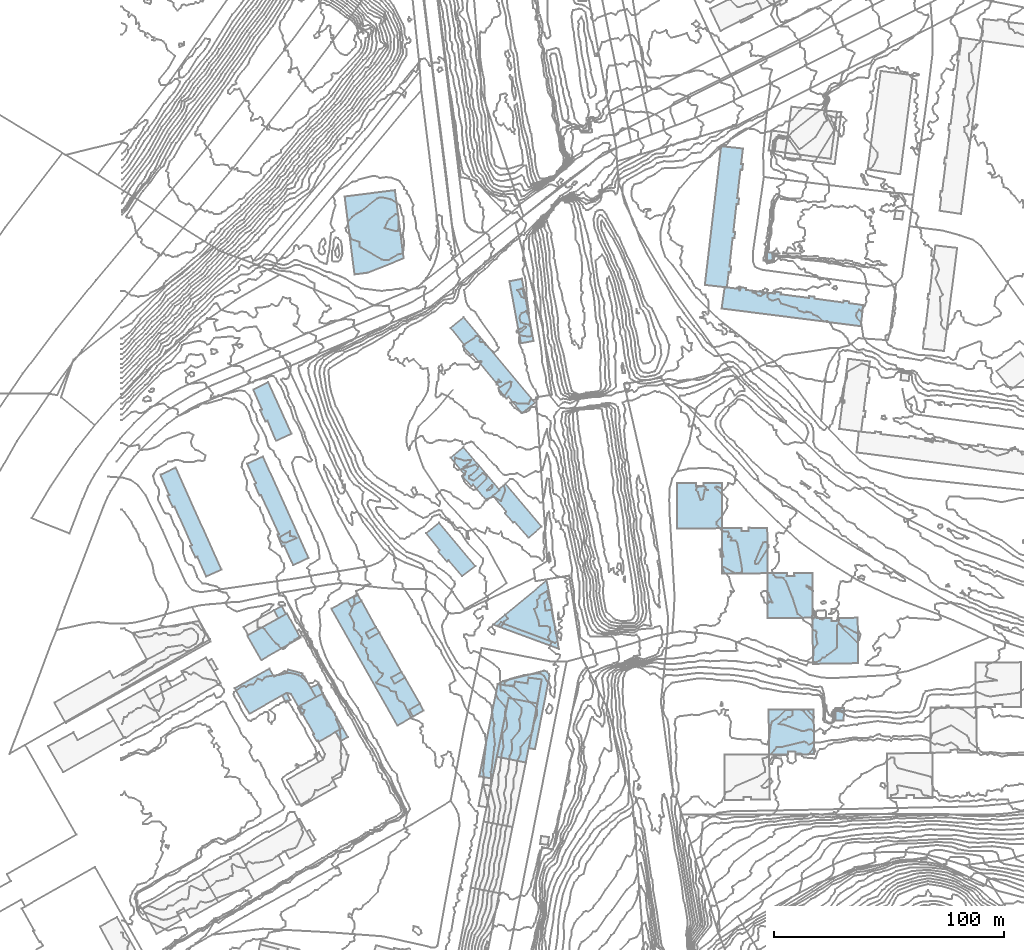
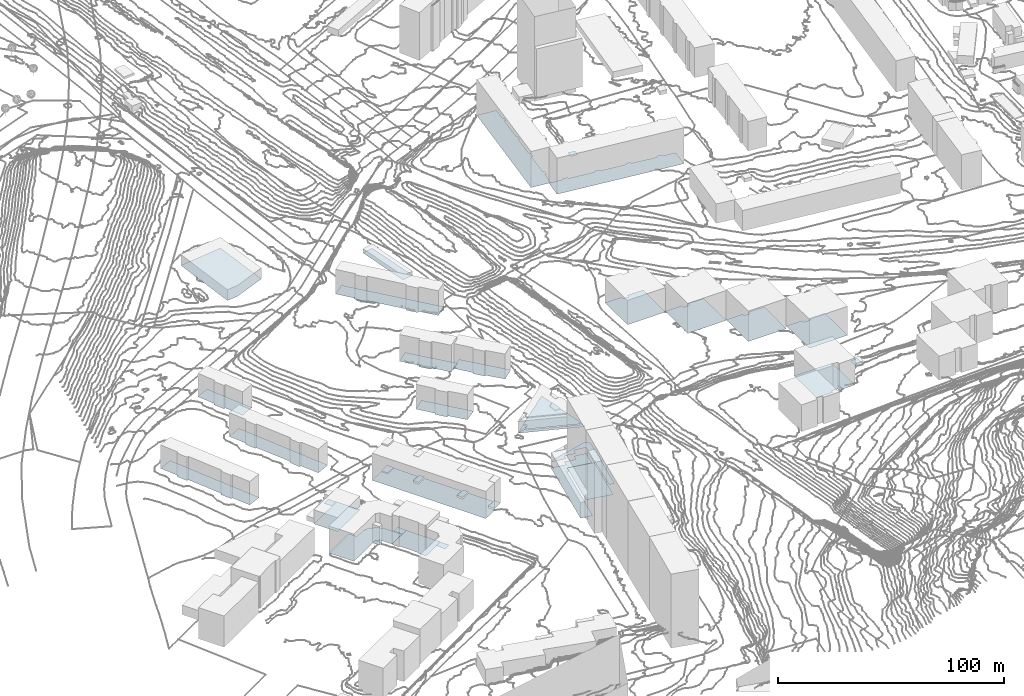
# Not in any storey, part 3 of 419: 36 footings.
"""IFC2X3 model written with IfcOpenShell, lengths in metres."""

from ifc_helpers import new_model, si_unit, frame, origin_with_axes, place, context, subcontext, project, faceted_brep, element, save


model = new_model("IFC2X3")

# Units and contexts
model_context = context("Model", 3, precision=1e-05, world=origin_with_axes())
body_context = subcontext(model_context, "Body", "Model", "MODEL_VIEW")
ifc_project = project(units=[si_unit("AREAUNIT", "SQUARE_METRE"), si_unit("LENGTHUNIT", "METRE")], contexts=[model_context])

# Footings
footing_1_placement = place(None, frame((261.1920204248, 673.8976909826, 29.2109998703), z_axis=(0.0, 0.0, 1.0), x_axis=(1.0, 0.0, 0.0)))
element("IfcFooting", 1, at=footing_1_placement, Name="Sol 0", PredefinedType="STRIP_FOOTING", context=body_context, shape_type="Brep", body=[
    faceted_brep([(1.3, 9.0999999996, 0.0), (2.3, 9.2000000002, 0.0), (8.1, 8.5, 0.0), (60.6, -7.7000000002, 0.0), (0.0, 0.0, 0.0), (55.5, 2.2999999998, 0.0), (61.7000000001, 1.5, 0.0), (53.1, 3.4000000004, 0.0), (55.6, 3.0999999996, 0.0), (38.1, 5.4000000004, 0.0), (40.6, 5.0999999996, 0.0), (40.5, 4.2999999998, 0.0), (23.3, 7.2999999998, 0.0), (25.8, 7.0, 0.0), (25.7000000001, 6.2000000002, 0.0), (8.2000000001, 9.2999999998, 0.0), (10.7000000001, 8.9000000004, 0.0), (10.6, 8.0999999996, 0.0), (38.0, 4.5999999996, 0.0), (23.2000000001, 6.5, 0.0), (53.0, 2.5999999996, 0.0)], [[[0, 1, 2]], [[3, 4, 0]], [[5, 6, 3]], [[7, 8, 5]], [[9, 10, 11]], [[12, 13, 14]], [[15, 16, 17]], [[3, 0, 2]], [[7, 5, 3]], [[18, 9, 11]], [[19, 12, 14]], [[2, 15, 17]], [[20, 7, 3]], [[18, 11, 20]], [[19, 14, 18]], [[3, 2, 17]], [[18, 20, 3]], [[17, 19, 18]], [[18, 3, 17]]]),
])
footing_2_placement = place(None, frame((261.3920204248, 558.3976909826, 23.918000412), z_axis=(0.0, 0.0, 1.0), x_axis=(1.0, 0.0, 0.0)))
element("IfcFooting", 2, at=footing_2_placement, Name="Sol 0", PredefinedType="STRIP_FOOTING", context=body_context, shape_type="Brep", body=[
    faceted_brep([(0.0, 0.0, 0.0), (0.0, 19.7999999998, 0.0), (8.5, 19.9000000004, 0.0), (19.7, 19.9000000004, 0.0), (19.7999999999, 0.2000000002, 0.0), (11.6, 18.5999999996, 0.0), (11.5, 20.0, 0.0), (8.3999999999, 18.5999999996, 0.0)], [[[0, 1, 2]], [[3, 4, 0]], [[5, 6, 3]], [[0, 2, 7]], [[5, 3, 0]], [[0, 7, 5]]]),
])
footing_3_placement = place(None, frame((166.4920204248, 536.4976909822, 18.7135003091), z_axis=(0.0, 0.0, 1.0), x_axis=(1.0, 0.0, 0.0)))
element("IfcFooting", 3, at=footing_3_placement, Name="Sol 0", PredefinedType="STRIP_FOOTING", context=body_context, shape_type="Brep", body=[
    faceted_brep([(1.6, 2.4000000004, 0.0), (0.4, 4.0, 0.0), (18.5, 19.0, 0.0), (0.0, 0.0, 0.0), (0.0, 1.1000000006, 0.0), (23.2, -7.2999999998, 0.0), (22.1, -8.2999999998, 0.0), (18.0, 5.8000000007, 0.0), (20.7999999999, 6.2000000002, 0.0), (19.7999999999, 12.1000000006, 0.0), (17.5, 9.9000000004, 0.0)], [[[0, 1, 2]], [[3, 4, 0]], [[5, 6, 3]], [[7, 8, 5]], [[2, 9, 10]], [[3, 0, 2]], [[7, 5, 3]], [[3, 2, 10]], [[10, 7, 3]]]),
])
footing_4_placement = place(None, frame((183.9920204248, 546.3976909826, 18.9063995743), z_axis=(0.0, 0.0, 1.0), x_axis=(1.0, 0.0, 0.0)))
element("IfcFooting", 4, at=footing_4_placement, Name="Sol 0", PredefinedType="STRIP_FOOTING", context=body_context, shape_type="Brep", body=[
    faceted_brep([(0.0, 0.0, 0.0), (2.2999999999, 2.2000000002, 0.0), (3.2999999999, -3.7000000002, 0.0), (0.5, -4.0999999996, 0.0)], [[[0, 1, 2]], [[2, 3, 0]]]),
])
footing_5_placement = place(None, frame((82.1920204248, 508.6976909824, 9.9609997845), z_axis=(0.0, 0.0, 1.0), x_axis=(1.0, 0.0, 0.0)))
element("IfcFooting", 5, at=footing_5_placement, Name="Sol 0", PredefinedType="STRIP_FOOTING", context=body_context, shape_type="Brep", body=[
    faceted_brep([(2.3, -4.0, 0.0), (0.0, 0.0, 0.0), (3.2000000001, 1.6000000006, 0.0), (5.3, -2.3999999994, 0.0)], [[[0, 1, 2]], [[2, 3, 0]]]),
])
footing_6_placement = place(None, frame((93.0920204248, 489.4976909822, 9.7441997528), z_axis=(0.0, 0.0, 1.0), x_axis=(1.0, 0.0, 0.0)))
element("IfcFooting", 6, at=footing_6_placement, Name="Sol 0", PredefinedType="STRIP_FOOTING", context=body_context, shape_type="Brep", body=[
    faceted_brep([(0.0, 0.0, 0.0), (3.0, 1.8000000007, 0.0), (5.3, -2.1999999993, 0.0), (2.2, -4.0, 0.0)], [[[0, 1, 2]], [[2, 3, 0]]]),
])
footing_7_placement = place(None, frame((125.1920204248, 499.1976909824, 14.0700001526), z_axis=(0.0, 0.0, 1.0), x_axis=(1.0, 0.0, 0.0)))
element("IfcFooting", 7, at=footing_7_placement, Name="Sol 0", PredefinedType="STRIP_FOOTING", context=body_context, shape_type="Brep", body=[
    faceted_brep([(6.1, -0.3999999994, 0.0), (1.6, -3.0, 0.0), (0.0, 0.0, 0.0), (4.6, 2.6000000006, 0.0)], [[[0, 1, 2]], [[2, 3, 0]]]),
])
footing_8_placement = place(None, frame((106.1920204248, 532.6976909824, 14.2120002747), z_axis=(0.0, 0.0, 1.0), x_axis=(1.0, 0.0, 0.0)))
element("IfcFooting", 8, at=footing_8_placement, Name="Sol 0", PredefinedType="STRIP_FOOTING", context=body_context, shape_type="Brep", body=[
    faceted_brep([(0.0, 0.0, 0.0), (4.4, 2.5, 0.0), (5.9, 0.1000000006, 0.0), (1.4, -2.5, 0.0)], [[[0, 1, 2]], [[2, 3, 0]]]),
])
footing_9_placement = place(None, frame((66.1920204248, 542.4976909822, 10.0399999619), z_axis=(0.0, 0.0, 1.0), x_axis=(1.0, 0.0, 0.0)))
element("IfcFooting", 9, at=footing_9_placement, Name="Sol 0", PredefinedType="STRIP_FOOTING", context=body_context, shape_type="Brep", body=[
    faceted_brep([(2.0, -3.5, 0.0), (0.0, 0.0, 0.0), (3.4, 1.9000000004, 0.0), (5.2000000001, -1.5999999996, 0.0)], [[[0, 1, 2]], [[2, 3, 0]]]),
])
footing_10_placement = place(None, frame((54.5920204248, 531.3976909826, 9.7736001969), z_axis=(0.0, 0.0, 1.0), x_axis=(1.0, 0.0, 0.0)))
element("IfcFooting", 10, at=footing_10_placement, Name="Sol 0", PredefinedType="STRIP_FOOTING", context=body_context, shape_type="Brep", body=[
    faceted_brep([(0.0, 0.0, 0.0), (0.4, 0.2999999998, 0.0), (17.3, 9.7000000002, 0.0), (23.1, -0.7999999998, 0.0), (6.1, -10.5999999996, 0.0)], [[[0, 1, 2]], [[3, 4, 0]], [[0, 2, 3]]]),
])
footing_11_placement = place(None, frame((163.2920204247, 478.5976909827, 16.6299998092), z_axis=(0.0, 0.0, 1.0), x_axis=(1.0, 0.0, 0.0)))
element("IfcFooting", 11, at=footing_11_placement, Name="Sol 0", PredefinedType="STRIP_FOOTING", context=body_context, shape_type="Brep", body=[
    faceted_brep([(17.7000000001, 23.2000000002, 0.0), (12.6000000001, -2.5, 0.0), (0.0, 0.0, 0.0), (5.1000000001, 25.5999999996, 0.0)], [[[0, 1, 2]], [[2, 3, 0]]]),
])
footing_12_placement = place(None, frame((310.6920204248, 499.5976909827, 27.395499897), z_axis=(0.0, 0.0, 1.0), x_axis=(1.0, 0.0, 0.0)))
element("IfcFooting", 12, at=footing_12_placement, Name="Sol 0", PredefinedType="STRIP_FOOTING", context=body_context, shape_type="Brep", body=[
    faceted_brep([(3.8, 0.2999999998, 0.0), (3.7000000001, -5.1000000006, 0.0), (0.1, -5.2000000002, 0.0), (0.0, 0.0, 0.0)], [[[0, 1, 2]], [[2, 3, 0]]]),
])
footing_13_placement = place(None, frame((98.0920204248, 546.9976909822, 13.6560001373), z_axis=(0.0, 0.0, 1.0), x_axis=(1.0, 0.0, 0.0)))
element("IfcFooting", 13, at=footing_13_placement, Name="Sol 0", PredefinedType="STRIP_FOOTING", context=body_context, shape_type="Brep", body=[
    faceted_brep([(1.7, -2.8999999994, 0.0), (0.0, 0.0, 0.0), (4.5, 2.5, 0.0), (6.2, -0.3999999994, 0.0)], [[[0, 1, 2]], [[2, 3, 0]]]),
])
footing_14_placement = place(None, frame((300.6920204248, 539.1976909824, 25.8771994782), z_axis=(0.0, 0.0, 1.0), x_axis=(1.0, 0.0, 0.0)))
element("IfcFooting", 14, at=footing_14_placement, Name="Sol 0", PredefinedType="STRIP_FOOTING", context=body_context, shape_type="Brep", body=[
    faceted_brep([(0.4, -20.0999999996, 0.0), (0.0, 0.0, 0.0), (8.3, -0.0999999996, 0.0), (19.8, 0.0, 0.0), (20.0, -19.7999999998, 0.0), (11.6, -1.2999999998, 0.0), (11.6, -0.0999999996, 0.0), (8.3, -1.3999999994, 0.0)], [[[0, 1, 2]], [[3, 4, 0]], [[5, 6, 3]], [[0, 2, 7]], [[5, 3, 0]], [[0, 7, 5]]]),
])
footing_15_placement = place(None, frame((143.1920204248, 665.4976909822, 21.6827999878), z_axis=(0.0, 0.0, 1.0), x_axis=(1.0, 0.0, 0.0)))
element("IfcFooting", 15, at=footing_15_placement, Name="Sol 0", PredefinedType="STRIP_FOOTING", context=body_context, shape_type="Brep", body=[
    faceted_brep([(6.0, -7.3999999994, 0.0), (0.0, 0.0, 0.0), (5.6, 4.6000000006, 0.0), (8.8, -11.8999999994, 0.0), (5.4, -7.8999999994, 0.0), (24.3, -30.6999999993, 0.0), (20.8, -26.3999999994, 0.0), (21.4, -25.7999999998, 0.0), (36.7000000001, -32.5999999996, 0.0), (31.1, -37.0999999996, 0.0), (25.1, -30.0, 0.0), (9.5, -11.5, 0.0)], [[[0, 1, 2]], [[3, 4, 0]], [[5, 6, 7]], [[8, 9, 10]], [[0, 2, 8]], [[11, 3, 0]], [[10, 5, 7]], [[11, 0, 8]], [[10, 7, 11]], [[11, 8, 10]]]),
])
footing_16_placement = place(None, frame((281.6920204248, 499.2976909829, 29.7783000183), z_axis=(0.0, 0.0, 1.0), x_axis=(1.0, 0.0, 0.0)))
element("IfcFooting", 16, at=footing_16_placement, Name="Sol 0", PredefinedType="STRIP_FOOTING", context=body_context, shape_type="Brep", body=[
    faceted_brep([(8.5, -19.7000000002, 0.0), (0.2000000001, -19.7000000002, 0.0), (0.0, 0.0, 0.0), (19.8, -19.5, 0.0), (11.7000000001, -19.8000000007, 0.0), (11.7000000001, -18.5, 0.0), (19.6, 0.0, 0.0), (8.5, -18.4000000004, 0.0)], [[[0, 1, 2]], [[3, 4, 5]], [[2, 6, 3]], [[7, 0, 2]], [[2, 3, 5]], [[5, 7, 2]]]),
])
footing_17_placement = place(None, frame((163.6920204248, 510.2976909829, 17.7051999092), z_axis=(0.0, 0.0, 1.0), x_axis=(1.0, 0.0, 0.0)))
element("IfcFooting", 17, at=footing_17_placement, Name="Sol 0", PredefinedType="STRIP_FOOTING", context=body_context, shape_type="Brep", body=[
    faceted_brep([(7.1, -1.1000000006, 0.0), (0.0, 0.0, 0.0), (2.3, 1.2999999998, 0.0), (13.4, 2.7999999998, 0.0), (12.9, 0.2999999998, 0.0), (7.5, 1.0999999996, 0.0), (16.2000000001, -28.4000000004, 0.0), (13.6, -27.9000000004, 0.0), (19.1, 2.0, 0.0), (22.3, 4.3999999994, 0.0), (22.5, 3.3999999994, 0.0), (20.1, 5.7999999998, 0.0), (21.4, 5.3999999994, 0.0)], [[[0, 1, 2]], [[3, 4, 5]], [[6, 7, 8]], [[9, 10, 6]], [[11, 12, 9]], [[5, 0, 2]], [[9, 6, 8]], [[2, 11, 9]], [[3, 5, 2]], [[9, 8, 3]], [[3, 2, 9]]]),
])
footing_18_placement = place(None, frame((69.6920204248, 505.3976909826, 9.9300001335), z_axis=(0.0, 0.0, 1.0), x_axis=(1.0, 0.0, 0.0)))
element("IfcFooting", 18, at=footing_18_placement, Name="Sol 0", PredefinedType="STRIP_FOOTING", context=body_context, shape_type="Brep", body=[
    faceted_brep([(1.7000000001, -3.0999999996, 0.0), (0.0, 0.0, 0.0), (2.0, 1.0999999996, 0.0), (3.7000000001, -2.0, 0.0)], [[[0, 1, 2]], [[2, 3, 0]]]),
])
footing_19_placement = place(None, frame((49.0920204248, 508.4976909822, 9.7259999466), z_axis=(0.0, 0.0, 1.0), x_axis=(1.0, 0.0, 0.0)))
element("IfcFooting", 19, at=footing_19_placement, Name="Sol 0", PredefinedType="STRIP_FOOTING", context=body_context, shape_type="Brep", body=[
    faceted_brep([(29.4, 5.5, 0.0), (30.4, 5.1000000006, 0.0), (33.1, 0.2000000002, 0.0), (23.2, 8.1000000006, 0.0), (29.5, 6.4000000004, 0.0), (17.2, 5.0, 0.0), (21.7, 7.4000000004, 0.0), (22.8, 7.2000000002, 0.0), (0.0, 0.0, 0.0), (15.1, 8.6000000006, 0.0), (22.6, -2.0, 0.0), (6.4, -11.0999999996, 0.0), (35.4, -3.7999999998, 0.0), (27.7, -8.0, 0.0), (24.6, -2.5999999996, 0.0)], [[[0, 1, 2]], [[3, 4, 0]], [[5, 6, 7]], [[8, 9, 5]], [[10, 11, 8]], [[12, 13, 14]], [[0, 2, 12]], [[7, 3, 0]], [[10, 8, 5]], [[12, 14, 10]], [[7, 0, 12]], [[10, 5, 7]], [[7, 12, 10]]]),
])
footing_20_placement = place(None, frame((280.3920204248, 694.9976909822, 29.9621998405), z_axis=(0.0, 0.0, 1.0), x_axis=(1.0, 0.0, 0.0)))
element("IfcFooting", 20, at=footing_20_placement, Name="Sol 0", PredefinedType="STRIP_FOOTING", context=body_context, shape_type="Brep", body=[
    faceted_brep([(3.5, -0.2999999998, 0.0), (0.0, 0.0, 0.0), (0.6, 3.5, 0.0), (4.0, 2.9000000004, 0.0)], [[[0, 1, 2]], [[2, 3, 0]]]),
])
footing_21_placement = place(None, frame((168.7920204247, 685.7976909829, 22.6524004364), z_axis=(0.0, 0.0, 1.0), x_axis=(1.0, 0.0, 0.0)))
element("IfcFooting", 21, at=footing_21_placement, Name="Sol 0", PredefinedType="STRIP_FOOTING", context=body_context, shape_type="Brep", body=[
    faceted_brep([(5.0, -27.0, 0.0), (0.0, 0.0, 0.0), (5.4, 1.0999999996, 0.0), (10.5, -26.0, 0.0)], [[[0, 1, 2]], [[2, 3, 0]]]),
])
footing_22_placement = place(None, frame((161.6920204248, 536.1976909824, 18.3032001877), z_axis=(0.0, 0.0, 1.0), x_axis=(1.0, 0.0, 0.0)))
element("IfcFooting", 22, at=footing_22_placement, Name="Sol 0", PredefinedType="STRIP_FOOTING", context=body_context, shape_type="Brep", body=[
    faceted_brep([(0.0, 0.0, 0.0), (5.2000000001, 4.2999999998, 0.0), (6.4, 2.7000000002, 0.0), (26.9, -8.0, 0.0), (28.0, -7.0, 0.0), (28.6, -10.5999999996, 0.0), (4.8, 1.4000000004, 0.0), (4.8, 0.2999999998, 0.0)], [[[0, 1, 2]], [[3, 4, 5]], [[0, 2, 6]], [[3, 5, 0]], [[0, 6, 7]], [[7, 3, 0]]]),
])
footing_23_placement = place(None, frame((117.2920204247, 513.1976909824, 14.2434998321), z_axis=(0.0, 0.0, 1.0), x_axis=(1.0, 0.0, 0.0)))
element("IfcFooting", 23, at=footing_23_placement, Name="Sol 0", PredefinedType="STRIP_FOOTING", context=body_context, shape_type="Brep", body=[
    faceted_brep([(4.5, 2.4000000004, 0.0), (6.0, -0.0999999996, 0.0), (1.4, -2.7000000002, 0.0), (0.0, 0.0, 0.0)], [[[0, 1, 2]], [[2, 3, 0]]]),
])
footing_24_placement = place(None, frame((76.6920204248, 499.7976909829, 9.8620001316), z_axis=(0.0, 0.0, 1.0), x_axis=(1.0, 0.0, 0.0)))
element("IfcFooting", 24, at=footing_24_placement, Name="Sol 0", PredefinedType="STRIP_FOOTING", context=body_context, shape_type="Brep", body=[
    faceted_brep([(0.1, 0.6999999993, 0.0), (7.8, 4.8999999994, 0.0), (10.8, 6.5, 0.0), (1.5, -2.8000000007, 0.0), (0.0, 0.0, 0.0), (0.4, 0.1999999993, 0.0), (8.2000000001, -14.4000000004, 0.0), (6.5, -11.5, 0.0), (7.0, -11.3000000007, 0.0), (19.4, -8.5, 0.0), (8.9, -14.7000000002, 0.0), (8.6, -14.2000000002, 0.0), (2.0, -2.5, 0.0)], [[[0, 1, 2]], [[3, 4, 5]], [[6, 7, 8]], [[9, 10, 11]], [[0, 2, 9]], [[12, 3, 5]], [[11, 6, 8]], [[5, 0, 9]], [[9, 11, 8]], [[12, 5, 9]], [[9, 8, 12]]]),
])
footing_25_placement = place(None, frame((155.5920204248, 470.0976909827, 14.5910001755), z_axis=(0.0, 0.0, 1.0), x_axis=(1.0, 0.0, 0.0)))
element("IfcFooting", 25, at=footing_25_placement, Name="Sol 0", PredefinedType="STRIP_FOOTING", context=body_context, shape_type="Brep", body=[
    faceted_brep([(27.2, 42.2000000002, 0.0), (25.4, 31.7000000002, 0.0), (12.8, 34.0999999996, 0.0), (21.0, 40.5, 0.0), (21.5, 43.0, 0.0), (15.2, 39.0999999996, 0.0), (15.6, 41.2999999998, 0.0), (5.7, -1.0, 0.0), (0.0, 0.0, 0.0), (8.1, 40.2000000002, 0.0)], [[[0, 1, 2]], [[3, 4, 0]], [[5, 6, 3]], [[7, 8, 9]], [[3, 0, 2]], [[2, 7, 9]], [[5, 3, 2]], [[2, 9, 5]]]),
])
footing_26_placement = place(None, frame((132.4920204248, 575.9976909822, 17.4988001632), z_axis=(0.0, 0.0, 1.0), x_axis=(1.0, 0.0, 0.0)))
element("IfcFooting", 26, at=footing_26_placement, Name="Sol 0", PredefinedType="STRIP_FOOTING", context=body_context, shape_type="Brep", body=[
    faceted_brep([(5.9, -7.2999999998, 0.0), (0.0, 0.0, 0.0), (5.6, 4.6000000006, 0.0), (9.0, -12.2999999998, 0.0), (5.2999999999, -7.8999999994, 0.0), (21.4, -14.1999999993, 0.0), (15.7, -18.5999999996, 0.0), (9.7, -11.6999999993, 0.0)], [[[0, 1, 2]], [[3, 4, 0]], [[5, 6, 7]], [[0, 2, 5]], [[7, 3, 0]], [[0, 5, 7]]]),
])
footing_27_placement = place(None, frame((16.6920204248, 601.4976909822, 10.534799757), z_axis=(0.0, 0.0, 1.0), x_axis=(1.0, 0.0, 0.0)))
element("IfcFooting", 27, at=footing_27_placement, Name="Sol 0", PredefinedType="STRIP_FOOTING", context=body_context, shape_type="Brep", body=[
    faceted_brep([(3.9, -8.7999999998, 0.0), (0.0, 0.0, 0.0), (6.7000000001, 3.1000000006, 0.0), (5.4, -14.0999999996, 0.0), (3.1, -9.0999999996, 0.0), (15.3, -36.0, 0.0), (13.0, -31.0, 0.0), (13.7000000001, -30.5999999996, 0.0), (26.6, -41.2999999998, 0.0), (20.0, -44.2999999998, 0.0), (16.1, -35.6999999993, 0.0), (6.2000000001, -13.7999999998, 0.0)], [[[0, 1, 2]], [[3, 4, 0]], [[5, 6, 7]], [[8, 9, 10]], [[0, 2, 8]], [[11, 3, 0]], [[10, 5, 7]], [[11, 0, 8]], [[10, 7, 11]], [[11, 8, 10]]]),
])
footing_28_placement = place(None, frame((253.8920204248, 684.1976909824, 29.122400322), z_axis=(0.0, 0.0, 1.0), x_axis=(1.0, 0.0, 0.0)))
element("IfcFooting", 28, at=footing_28_placement, Name="Sol 0", PredefinedType="STRIP_FOOTING", context=body_context, shape_type="Brep", body=[
    faceted_brep([(10.3999999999, 5.5, 0.0), (9.6, -1.0999999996, 0.0), (0.0, 0.0, 0.0), (11.5, 8.0, 0.0), (11.2, 5.4000000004, 0.0), (13.2, 23.0, 0.0), (12.8999999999, 20.4000000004, 0.0), (12.1, 20.5, 0.0), (14.8999999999, 37.7000000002, 0.0), (14.6, 35.2000000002, 0.0), (13.7999999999, 35.2999999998, 0.0), (16.6, 52.6000000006, 0.0), (16.2999999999, 50.1000000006, 0.0), (15.5, 50.2000000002, 0.0), (7.1, 60.4000000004, 0.0), (16.6, 59.4000000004, 0.0), (15.7999999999, 52.7000000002, 0.0), (10.7, 8.1000000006, 0.0), (12.3999999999, 23.1000000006, 0.0), (14.1, 37.7999999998, 0.0)], [[[0, 1, 2]], [[3, 4, 0]], [[5, 6, 7]], [[8, 9, 10]], [[11, 12, 13]], [[14, 15, 16]], [[0, 2, 14]], [[17, 3, 0]], [[18, 5, 7]], [[19, 8, 10]], [[16, 11, 13]], [[17, 0, 14]], [[10, 18, 7]], [[13, 19, 10]], [[14, 16, 13]], [[7, 17, 14]], [[13, 10, 7]], [[7, 14, 13]]]),
])
footing_29_placement = place(None, frame((281.1920204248, 558.5976909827, 24.3062007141), z_axis=(0.0, 0.0, 1.0), x_axis=(1.0, 0.0, 0.0)))
element("IfcFooting", 29, at=footing_29_placement, Name="Sol 0", PredefinedType="STRIP_FOOTING", context=body_context, shape_type="Brep", body=[
    faceted_brep([(0.1, -19.5, 0.0), (0.0, 0.0, 0.0), (8.5, 0.0, 0.0), (19.7000000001, 0.0999999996, 0.0), (19.5, -19.4000000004, 0.0), (11.7000000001, -1.2000000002, 0.0), (11.6, 0.0999999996, 0.0), (8.4, -1.2000000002, 0.0)], [[[0, 1, 2]], [[3, 4, 0]], [[5, 6, 3]], [[0, 2, 7]], [[5, 3, 0]], [[0, 7, 5]]]),
])
footing_30_placement = place(None, frame((57.1920204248, 638.6976909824, 12.5381999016), z_axis=(0.0, 0.0, 1.0), x_axis=(1.0, 0.0, 0.0)))
element("IfcFooting", 30, at=footing_30_placement, Name="Sol 0", PredefinedType="STRIP_FOOTING", context=body_context, shape_type="Brep", body=[
    faceted_brep([(3.8, -8.7000000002, 0.0), (0.0, 0.0, 0.0), (6.5, 3.1000000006, 0.0), (5.3, -14.0, 0.0), (3.0, -9.0, 0.0), (16.6, -19.2999999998, 0.0), (9.9, -22.3999999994, 0.0), (6.2000000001, -13.5999999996, 0.0)], [[[0, 1, 2]], [[3, 4, 0]], [[5, 6, 7]], [[0, 2, 5]], [[7, 3, 0]], [[0, 5, 7]]]),
])
footing_31_placement = place(None, frame((91.1920204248, 543.1976909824, 13.3583998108), z_axis=(0.0, 0.0, 1.0), x_axis=(1.0, 0.0, 0.0)))
element("IfcFooting", 31, at=footing_31_placement, Name="Sol 0", PredefinedType="STRIP_FOOTING", context=body_context, shape_type="Brep", body=[
    faceted_brep([(34.0, -44.0, 0.0), (35.6, -47.0, 0.0), (28.8, -50.8999999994, 0.0), (32.1, -30.0999999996, 0.0), (38.6, -41.3999999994, 0.0), (20.9, -10.3999999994, 0.0), (30.6, -27.5999999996, 0.0), (26.1, -30.0, 0.0), (13.1, 3.4000000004, 0.0), (19.4, -8.0, 0.0), (15.0, -10.5, 0.0), (0.0, 0.0, 0.0), (6.9, 3.7999999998, 0.0), (8.6, 0.9000000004, 0.0), (27.5, -32.7000000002, 0.0), (16.4, -13.0, 0.0), (15.7000000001, -11.8999999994, 0.0)], [[[0, 1, 2]], [[3, 4, 0]], [[5, 6, 7]], [[8, 9, 10]], [[11, 12, 13]], [[0, 2, 11]], [[14, 3, 0]], [[15, 5, 7]], [[13, 8, 10]], [[14, 0, 11]], [[15, 7, 14]], [[13, 10, 16]], [[15, 14, 11]], [[11, 13, 16]], [[16, 15, 11]]]),
])
footing_32_placement = place(None, frame((54.4920204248, 606.2976909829, 11.641999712), z_axis=(0.0, 0.0, 1.0), x_axis=(1.0, 0.0, 0.0)))
element("IfcFooting", 32, at=footing_32_placement, Name="Sol 0", PredefinedType="STRIP_FOOTING", context=body_context, shape_type="Brep", body=[
    faceted_brep([(3.9, -8.5, 0.0), (0.0, 0.0, 0.0), (6.9, 3.1999999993, 0.0), (5.4, -13.8000000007, 0.0), (3.2, -8.9000000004, 0.0), (15.2999999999, -36.0, 0.0), (13.2, -30.9000000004, 0.0), (13.9, -30.6000000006, 0.0), (26.7999999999, -41.0, 0.0), (20.1, -44.2000000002, 0.0), (16.2, -35.7000000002, 0.0), (6.1, -13.6000000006, 0.0)], [[[0, 1, 2]], [[3, 4, 0]], [[5, 6, 7]], [[8, 9, 10]], [[0, 2, 8]], [[11, 3, 0]], [[10, 5, 7]], [[11, 0, 8]], [[8, 10, 7]], [[7, 11, 8]]]),
])
footing_33_placement = place(None, frame((241.8920204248, 577.9976909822, 23.506999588), z_axis=(0.0, 0.0, 1.0), x_axis=(1.0, 0.0, 0.0)))
element("IfcFooting", 33, at=footing_33_placement, Name="Sol 0", PredefinedType="STRIP_FOOTING", context=body_context, shape_type="Brep", body=[
    faceted_brep([(19.6, 19.8000000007, 0.0), (19.5, 0.2000000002, 0.0), (0.0, 0.0, 0.0), (11.5, 18.6000000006, 0.0), (11.5, 19.8000000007, 0.0), (0.0, 19.8000000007, 0.0), (8.2, 19.8000000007, 0.0), (8.2, 18.5, 0.0)], [[[0, 1, 2]], [[3, 4, 0]], [[5, 6, 7]], [[3, 0, 2]], [[2, 5, 7]], [[7, 3, 2]]]),
])
footing_34_placement = place(None, frame((143.1920204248, 608.8976909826, 19.6647996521), z_axis=(0.0, 0.0, 1.0), x_axis=(1.0, 0.0, 0.0)))
element("IfcFooting", 34, at=footing_34_placement, Name="Sol 0", PredefinedType="STRIP_FOOTING", context=body_context, shape_type="Brep", body=[
    faceted_brep([(21.0, -13.5999999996, 0.0), (21.3, -14.0999999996, 0.0), (18.4, -16.4000000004, 0.0), (0.0, 0.0, 0.0), (5.5, 4.7000000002, 0.0), (9.0, -12.4000000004, 0.0), (5.3, -8.0999999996, 0.0), (6.2000000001, -7.4000000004, 0.0), (15.7000000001, -18.7000000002, 0.0), (9.8, -11.7000000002, 0.0)], [[[0, 1, 2]], [[3, 4, 0]], [[5, 6, 7]], [[2, 8, 9]], [[3, 0, 2]], [[9, 5, 7]], [[7, 3, 2]], [[2, 9, 7]]]),
])
footing_35_placement = place(None, frame((161.5920204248, 592.4976909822, 19.2395999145), z_axis=(0.0, 0.0, 1.0), x_axis=(1.0, 0.0, 0.0)))
element("IfcFooting", 35, at=footing_35_placement, Name="Sol 0", PredefinedType="STRIP_FOOTING", context=body_context, shape_type="Brep", body=[
    faceted_brep([(5.8, -7.0999999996, 0.0), (0.0, 0.0, 0.0), (2.9, 2.3000000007, 0.0), (8.8, -11.8999999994, 0.0), (5.2, -7.5999999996, 0.0), (21.2, -13.5, 0.0), (15.5, -18.3999999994, 0.0), (9.4, -11.5, 0.0), (2.6, 2.8000000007, 0.0), (5.4, 5.1000000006, 0.0)], [[[0, 1, 2]], [[3, 4, 0]], [[5, 6, 7]], [[8, 9, 5]], [[3, 0, 2]], [[2, 8, 5]], [[7, 3, 2]], [[2, 5, 7]]]),
])
footing_36_placement = place(None, frame((96.9920204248, 722.6976909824, 18.6733999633), z_axis=(0.0, 0.0, 1.0), x_axis=(1.0, 0.0, 0.0)))
element("IfcFooting", 36, at=footing_36_placement, Name="Sol 0", PredefinedType="STRIP_FOOTING", context=body_context, shape_type="Brep", body=[
    faceted_brep([(4.2999999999, -33.8999999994, 0.0), (0.0, 0.0, 0.0), (21.9, 2.7999999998, 0.0), (25.7, -26.8999999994, 0.0), (10.0, -33.2000000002, 0.0)], [[[0, 1, 2]], [[3, 4, 0]], [[0, 2, 3]]]),
])

save(model, "model.ifc")
